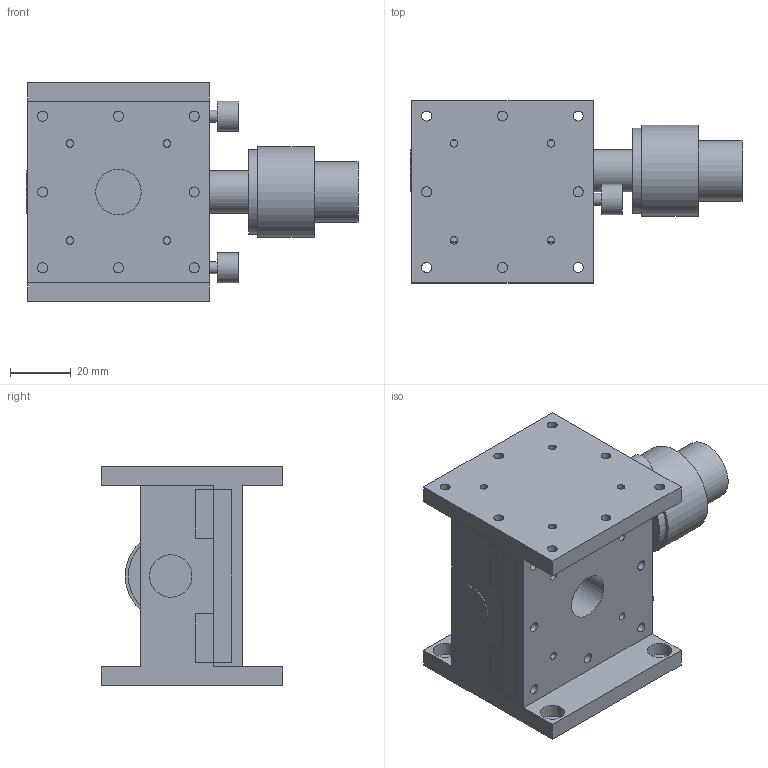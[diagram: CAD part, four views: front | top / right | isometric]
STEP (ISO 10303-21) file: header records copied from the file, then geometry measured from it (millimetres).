
FILE_DESCRIPTION( ( 'STEP AP214' ), '1' );
FILE_NAME( 'C:/Project/B06-13BZ.stp', '2007-05-08T10:31:36', ( ' ' ), ( ' ' ), 'XStep 1.0', ' ', ' ' );
FILE_SCHEMA( ( 'automotive_design' ) );
Length unit declared in the file: millimetre
Products named in the file (3): 1; 2; 3
Bounding box: 109.5 x 60 x 72 mm (x, y, z)
Volume: 174644.4 mm3; surface area: 50363.8 mm2
Topology: 3 solids, 3 shells, 120 faces, 310 edges, 210 vertices
Faces by surface type: plane 75, cylinder 45
Full cylindrical faces by diameter (mm): 2.5 x8, 3.3 x16, 4 x2, 4.5 x6, 8 x4, 10 x2, 11.5 x1, 14 x2, 15 x1, 20 x1, 28 x1, 30 x1
Entity records: 4470 total; most frequent: DIRECTION 594, CARTESIAN_POINT 585, ORIENTED_EDGE 504, EDGE_CURVE 252, EDGE_LOOP 234, AXIS2_PLACEMENT_3D 223, VERTEX_POINT 198, FACE_OUTER_BOUND 165
